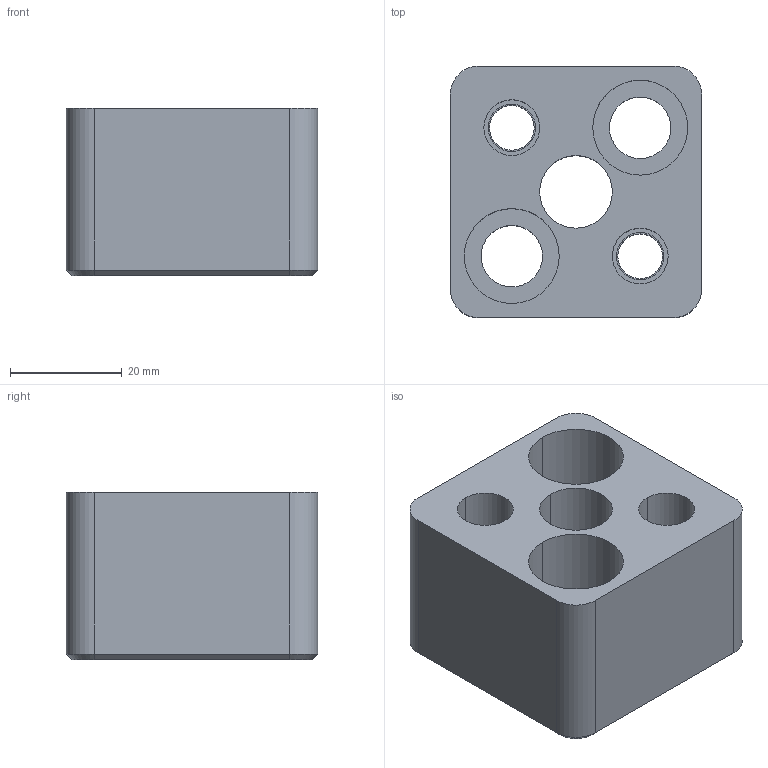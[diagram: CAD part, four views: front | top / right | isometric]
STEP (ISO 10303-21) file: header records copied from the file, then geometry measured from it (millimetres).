
FILE_DESCRIPTION(/* description */ (''),/* implementation_level */ '2;1');
FILE_NAME(/* name */ '3d_hsr-an13_04193_r00.stp',/* time_stamp */ '2011-01-10T14:14:35+09:00',/* author */ ('MISUMI'),/* organization */ (''),/* preprocessor_version */ 'ST-DEVELOPER v11',/* originating_system */ 'UGS - NX 5.0',/* authorisation */ '');
FILE_SCHEMA (('CONFIG_CONTROL_DESIGN'));
Length unit declared in the file: millimetre
Products named in the file (1): 3d_hsr-an13_04193_r00
Bounding box: 45 x 45 x 30 mm (x, y, z)
Volume: 42831.2 mm3; surface area: 13707.8 mm2
Topology: 1 solids, 1 shells, 51 faces, 116 edges, 74 vertices
Faces by surface type: cylinder 28, plane 17, cone 6
Entity records: 1562 total; most frequent: DIRECTION 278, CARTESIAN_POINT 254, ORIENTED_EDGE 232, EDGE_CURVE 116, AXIS2_PLACEMENT_3D 114, VERTEX_POINT 74, EDGE_LOOP 68, CIRCLE 62
